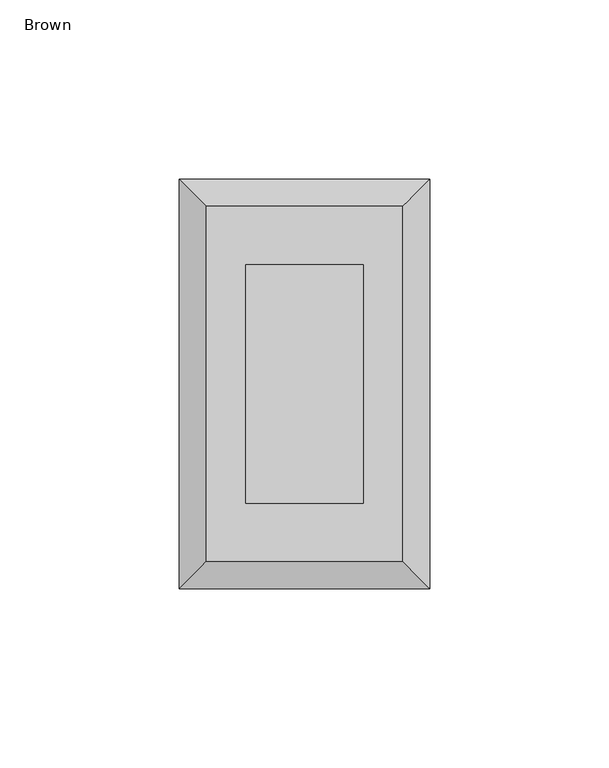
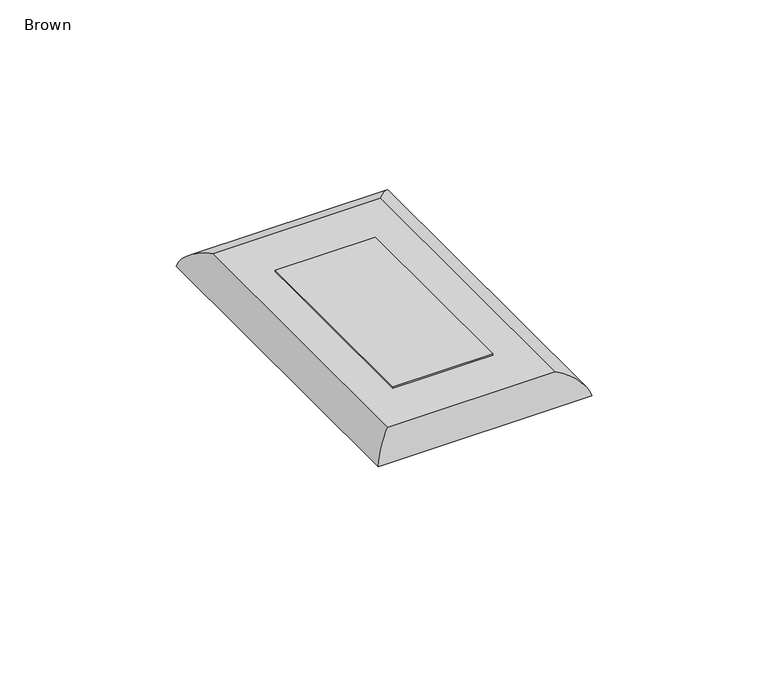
"""IFC4 building model written with IfcOpenShell, lengths in millimetres: proxy geometry, Switch-Wall-Pass_And_Seymour-Decorator : Brown."""

from ifc_helpers import new_model, si_unit, frame, origin, origin_with_axes, place, context, project, spatial, polyline, ellipse_curve, outline, extrude, source, transform, mapped, element, save
from ifc_brep_helpers import plane_surface, cylinder_surface, advanced_brep


def brown_01702a38(model_context):
    return source(origin(), model_context, "Body", "SolidModel", [
        extrude(outline(polyline([(16.383, 33.274), (16.383, -33.274), (-16.383, -33.274), (-16.383, 33.274), (16.383, 33.274)])), origin_with_axes(), (0.0, 0.0, 1.0), 6.604),
        advanced_brep(
        [(-27.305, -49.53, 6.35), (27.305, -49.53, 6.35), (27.305, 49.53, 6.35), (-27.305, 49.53, 6.35), (-16.383, 33.274, 6.35), (16.383, 33.274, 6.35), (16.383, -33.274, 6.35), (-16.383, -33.274, 6.35), (34.925, -57.15, 0.0), (-34.925, -57.15, 0.0), (-34.925, 57.15, 0.0), (34.925, 57.15, 0.0), (16.383, 33.274, 0.254), (-16.383, 33.274, 0.254), (-16.383, -33.274, 0.254), (16.383, -33.274, 0.254)],
        [
            (0, 1),
            (1, 2),
            (2, 3),
            (3, 0),
            (4, 5),
            (5, 6),
            (6, 7),
            (7, 4),
            (8, 9),
            (9, 10),
            (10, 11),
            (11, 8),
            (12, 13),
            (13, 14),
            (14, 15),
            (15, 12),
            (12, 5),
            (4, 13),
            (7, 14),
            (6, 15),
            (0, 9, ellipse_curve(frame((-27.305, -49.53, -1.397), z_axis=(0.7071067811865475, -0.7071067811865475, 0.0), x_axis=(-0.7071067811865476, -0.7071067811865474, 0.0)), 10.9559125, 7.747)),
            (8, 1, ellipse_curve(frame((27.305, -49.53, -1.397), z_axis=(-0.7071067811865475, -0.7071067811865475, 0.0), x_axis=(-0.7071067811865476, 0.7071067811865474, 0.0)), 10.9559125, 7.747)),
            (3, 10, ellipse_curve(frame((-27.305, 49.53, -1.397), z_axis=(-0.7071067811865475, -0.7071067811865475, 0.0), x_axis=(-0.7071067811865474, 0.7071067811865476, 0.0)), 10.9559125, 7.747)),
            (2, 11, ellipse_curve(frame((27.305, 49.53, -1.397), z_axis=(-0.7071067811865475, 0.7071067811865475, 0.0), x_axis=(0.7071067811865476, 0.7071067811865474, 0.0)), 10.9559125, 7.747)),
        ],
        [
            plane_surface(frame((-34.925, 57.15, 6.35), z_axis=(0.0, 0.0, 1.0), x_axis=(-1.0, 0.0, 0.0))),
            plane_surface(frame((-34.925, 57.15, 0.0), z_axis=(0.0, 0.0, -1.0), x_axis=(1.0, 0.0, 0.0))),
            plane_surface(frame((16.383, 33.274, 0.254), z_axis=(0.0, 0.0, 1.0), x_axis=(0.0, -1.0, 0.0))),
            plane_surface(frame((-16.383, 33.274, 0.254), z_axis=(0.0, -1.0, 0.0), x_axis=(0.0, 0.0, 1.0))),
            plane_surface(frame((-16.383, -33.274, 0.254), z_axis=(1.0, 0.0, 0.0), x_axis=(0.0, 0.0, 1.0))),
            plane_surface(frame((16.383, -33.274, 0.254), z_axis=(0.0, 1.0, 0.0), x_axis=(0.0, 0.0, 1.0))),
            plane_surface(frame((16.383, 33.274, 0.254), z_axis=(-1.0, 0.0, 0.0), x_axis=(0.0, 0.0, 1.0))),
            cylinder_surface(frame((34.925, -49.53, -1.397), z_axis=(-1.0, 0.0, 0.0), x_axis=(0.0, -1.0, 0.0)), 7.747),
            cylinder_surface(frame((-27.305, -57.15, -1.397), z_axis=(0.0, 1.0, 0.0), x_axis=(-1.0, 0.0, 0.0)), 7.747),
            cylinder_surface(frame((-34.925, 49.53, -1.397), z_axis=(1.0, 0.0, 0.0), x_axis=(0.0, 1.0, 0.0)), 7.747),
            cylinder_surface(frame((27.305, 57.15, -1.397), z_axis=(0.0, -1.0, 0.0), x_axis=(1.0, 0.0, 0.0)), 7.747),
        ],
        [
            (0, [[1, 2, 3, 4], [5, 6, 7, 8]]),
            (1, [[9, 10, 11, 12]]),
            (2, [[13, 14, 15, 16]]),
            (3, [[-13, 17, -5, 18]]),
            (4, [[-14, -18, -8, 19]]),
            (5, [[-15, -19, -7, 20]]),
            (6, [[-16, -20, -6, -17]]),
            (7, [[21, -9, 22, -1]]),
            (8, [[-21, -4, 23, -10]]),
            (9, [[-23, -3, 24, -11]]),
            (10, [[-22, -12, -24, -2]]),
        ],
    ),
        extrude(outline(polyline([(21.844, 35.179), (21.844, -35.179), (-21.844, -35.179), (-21.844, 35.179), (21.844, 35.179)])), frame((0.0, 0.0, -12.7), z_axis=(0.0, 0.0, 1.0), x_axis=(1.0, 0.0, 0.0)), (0.0, 0.0, 1.0), 12.7),
    ])


if __name__ == "__main__":
    model = new_model("IFC4")
    model_context = context("Model", 3, world=origin())
    ifc_project = project(units=[si_unit("LENGTHUNIT", "METRE", prefix="MILLI")], contexts=[model_context])
    site = spatial("IfcSite", under=ifc_project)
    building = spatial("IfcBuilding", under=site)
    placement = place(None, origin())
    brown_shape = brown_01702a38(model_context)
    element("IfcBuildingElementProxy", 1, Name="Switch-Wall-Pass_And_Seymour-Decorator : Brown", ObjectType="Switch-Wall-Pass_And_Seymour-Decorator : Brown", at=placement, inside=building, context=model_context, shape_type="MappedRepresentation", body=[
        mapped(brown_shape, transform((0.0, 0.0, 0.0), x_axis=(1.0, 0.0, 0.0), y_axis=(0.0, 1.0, 0.0), z_axis=(0.0, 0.0, 1.0))),
    ])
    save(model, "model.ifc")
